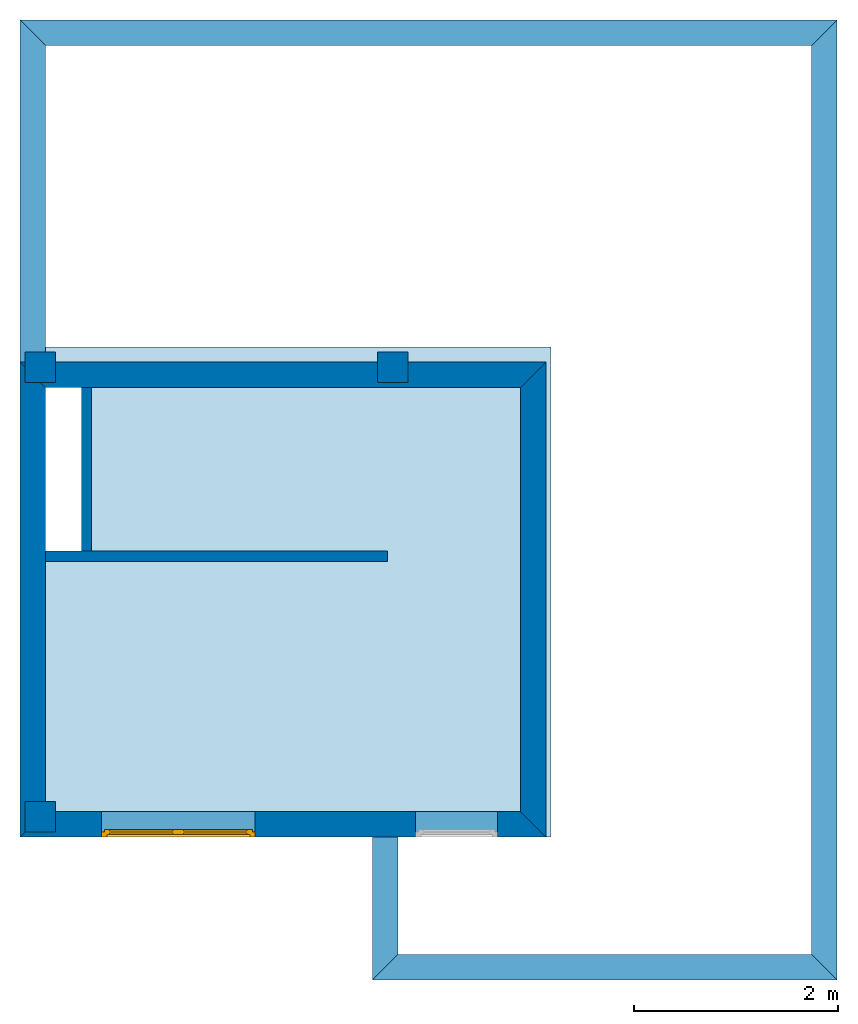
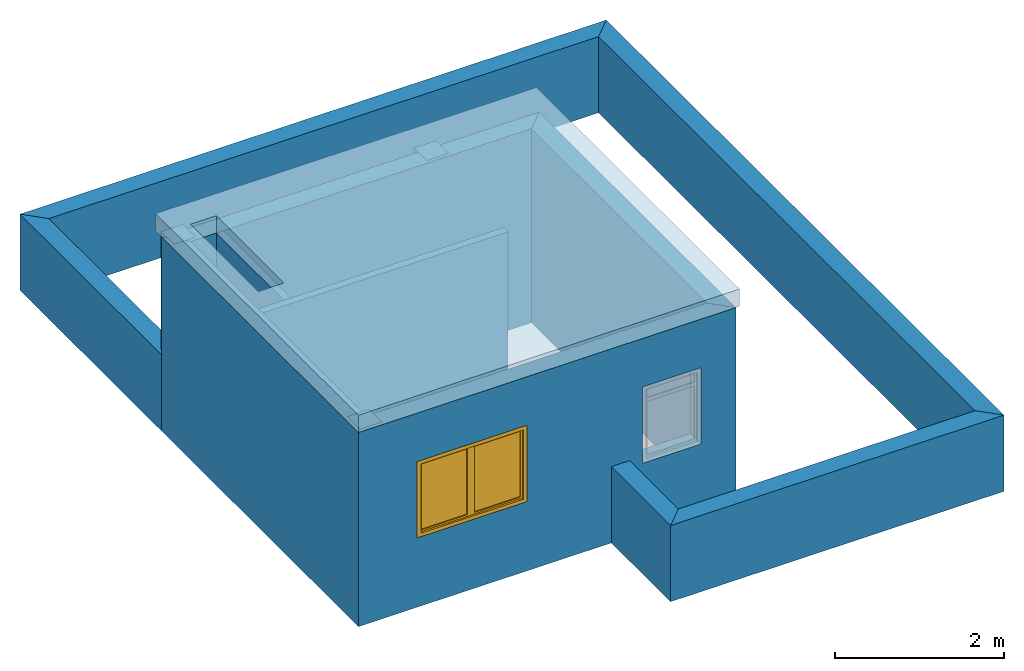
# One storey, part 1 of 2: 11 walls, 3 columns, 1 slab, 1 window, 3 openings.
"""IFC2X3 building model written with IfcOpenShell, lengths in millimetres."""

from ifc_helpers import new_model, entity, si_unit, converted_unit, direction, frame, frame_2d, origin_with_axes, origin_2d_with_axis, place, context, project, spatial, polyline, rectangle, outline, extrude, faceted_brep, source, transform, mapped, material, layer, layer_set, layer_usage, type_object, element, fill, save


model = new_model("IFC2X3")

# Units and contexts
context_of_model = context(None, 3, precision=1e-05, world=origin_with_axes(), true_north=direction((6.123234e-17, 1.0)))
plan_context = context("Plan", 3, precision=1e-05, world=origin_with_axes(), true_north=direction((6.123234e-17, 1.0)))
model_context = context("Model", 3, precision=1e-05, world=origin_with_axes(), true_north=direction((6.123234e-17, 1.0)))
ifc_project = project(units=[si_unit("LENGTHUNIT", "METRE", prefix="MILLI"), si_unit("AREAUNIT", "SQUARE_METRE"), si_unit("VOLUMEUNIT", "CUBIC_METRE"), converted_unit("PLANEANGLEUNIT", "DEGREE", entity("IfcPlaneAngleMeasure", 0.017453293), si_unit("PLANEANGLEUNIT", "RADIAN"), dimensions=[0, 0, 0, 0, 0, 0, 0]), si_unit("SOLIDANGLEUNIT", "STERADIAN"), si_unit("MASSUNIT", "GRAM"), si_unit("TIMEUNIT", "SECOND"), si_unit("THERMODYNAMICTEMPERATUREUNIT", "DEGREE_CELSIUS"), si_unit("LUMINOUSINTENSITYUNIT", "LUMEN")], contexts=[context_of_model, plan_context, model_context])

# Site, building, storey
site_placement = place(None, origin_with_axes())
site = spatial("IfcSite", under=ifc_project, at=site_placement, Name="Por defecto Sitio", CompositionType="ELEMENT")
building_placement = place(site_placement, origin_with_axes())
building = spatial("IfcBuilding", under=site, at=building_placement, Name="Por defecto Edificio", CompositionType="ELEMENT")
storey_placement = place(building_placement, frame((0.0, 0.0, 6300.0), z_axis=(0.0, 0.0, 1.0), x_axis=(1.0, 0.0, 0.0)))
storey = spatial("IfcBuildingStorey", under=building, at=storey_placement, Name="Azotea", CompositionType="ELEMENT", Elevation=6300.0)

# Columns
ifc_material_1 = material(Name="Hormigón armado")
for number, where, z_axis, x_axis, name in (
    (1, (0.0, 4950.0, 0.0), (0.0, 0.0, 1.0), (1.0, 0.0, 0.0), "Pilar-005"),
    (2, (3450.0, 9350.0, 0.0), (0.0, 0.0, 1.0), (1.0, 0.0, 0.0), "Pilar-007"),
    (3, (0.0, 9350.0, 0.0), (0.0, 0.0, 1.0), (1.0, 0.0, 0.0), "Pilar-008"),
):
    element("IfcColumn", number, at=place(storey_placement, frame(where, z_axis=z_axis, x_axis=x_axis)), inside=storey, material=ifc_material_1, Name=name, context=model_context, shape_type="SweptSolid", body=[
        extrude(rectangle(XDim=300.0, YDim=300.0, at=origin_2d_with_axis()), origin_with_axes(), (0.0, 0.0, 1.0), 2800.0),
    ])

# Slab, opening
ifc_layer_1 = layer(ifc_material_1, 250.0, ventilated="UNKNOWN")
ifc_layer_set_1 = layer_set([ifc_layer_1], Name="Hormigón armado 250")
ifc_layer_usage_1 = layer_usage(ifc_layer_set_1, "AXIS3", "NEGATIVE", 250.0)
slab_placement = place(storey_placement, frame((5000.0, 4750.0, 2800.0), z_axis=(0.0, 0.0, 1.0), x_axis=(-1.0, 0.0, 0.0)))
slab = element("IfcSlab", 4, at=slab_placement, inside=storey, material=ifc_layer_usage_1, Name="Forj-006", PredefinedType="FLOOR", context=model_context, shape_type="SweptSolid", body=[
    extrude(outline(polyline([(0.0, 0.0), (5200.0, 0.0), (5200.0, -4800.0), (0.0, -4800.0), (0.0, 0.0)])), origin_with_axes(), (0.0, 0.0, 1.0), 250.0),
])
opening_1_placement = place(slab_placement, origin_with_axes())
element("IfcOpeningElement", 5, at=opening_1_placement, cuts=slab, context=model_context, shape_type="SweptSolid", body=[
    extrude(outline(polyline([(4950.0, -4400.0), (4600.0, -4400.0), (4600.0, -2800.0), (4950.0, -2800.0), (4950.0, -4400.0)])), origin_with_axes(), (0.0, 0.0, 1.0), 250.0),
])

# Wall, openings, window
ifc_material_2 = material(Name="Bloque mampostería")
ifc_layer_2 = layer(ifc_material_2, 250.0, ventilated="UNKNOWN")
ifc_layer_set_2 = layer_set([ifc_layer_2], Name="Bloque mampostería 250")
ifc_layer_usage_2 = layer_usage(ifc_layer_set_2, "AXIS2", "NEGATIVE", 0.0)
wall_type_1 = type_object("IfcWallType", Name="Bloque mampostería 250", PredefinedType="NOTDEFINED", material=ifc_layer_set_2)
wall_1_placement = place(storey_placement, frame((4950.0, 4750.0, 0.0), z_axis=(0.0, 0.0, 1.0), x_axis=(-1.0, 0.0, 0.0)))
wall_1 = element("IfcWallStandardCase", 6, at=wall_1_placement, inside=storey, type_object=wall_type_1, material=ifc_layer_usage_2, Name="Muro-014", context=model_context, shape_type="SweptSolid", body=[
    extrude(outline(polyline([(250.0, -250.0), (4900.0, -250.0), (5150.0, 0.0), (0.0, 0.0), (250.0, -250.0)])), origin_with_axes(), (0.0, 0.0, 1.0), 2800.0),
])
opening_2_placement = place(wall_1_placement, frame((875.0, -250.0, 1000.0), z_axis=(0.0, 0.0, 1.0), x_axis=(1.0, 0.0, 0.0)))
element("IfcOpeningElement", 7, at=opening_2_placement, cuts=wall_1, ObjectType="Opening", context=model_context, shape_type="SweptSolid", body=[
    extrude(rectangle(XDim=800.0, YDim=1100.0, at=frame_2d((2.220446e-13, 550.0), x_axis=(1.0, 0.0))), frame((0.0, 0.0, 0.0), z_axis=(0.0, 1.0, 0.0), x_axis=(-1.0, 0.0, 0.0)), (0.0, 0.0, 1.0), 250.0),
])
opening_3_placement = place(wall_1_placement, frame((3600.0, -250.0, 1000.0), z_axis=(0.0, 0.0, 1.0), x_axis=(1.0, 0.0, 0.0)))
opening_3 = element("IfcOpeningElement", 8, at=opening_3_placement, cuts=wall_1, ObjectType="Opening", context=model_context, shape_type="SweptSolid", body=[
    extrude(rectangle(XDim=1500.0, YDim=1100.0, at=frame_2d((0.0, 550.0), x_axis=(-1.0, 0.0))), frame((0.0, 0.0, 0.0), z_axis=(0.0, 1.0, 0.0), x_axis=(-1.0, 0.0, 0.0)), (0.0, 0.0, 1.0), 250.0),
])
window_style = type_object("IfcWindowStyle", Name="V2 Practicable 13", ConstructionType="NOTDEFINED", OperationType="SINGLE_PANEL", ParameterTakesPrecedence=False, Sizeable=False)
shared_shape = source(origin_with_axes(), model_context, "Body", "Brep", [
    faceted_brep([(25.0, 50.0, 1050.0), (0.0, 50.0, 1050.0), (0.0, 0.0, 1050.0), (50.0, 0.0, 1050.0), (50.0, 25.0, 1050.0), (25.0, 25.0, 1050.0), (25.0, 50.0, 50.0), (0.0, 50.0, 50.0), (0.0, 0.0, 50.0), (50.0, 0.0, 50.0), (50.0, 25.0, 50.0), (25.0, 25.0, 50.0)], [[[0, 1, 2, 3, 4, 5]], [[6, 7, 1, 0]], [[1, 7, 8, 2]], [[2, 8, 9, 3]], [[4, 3, 9, 10]], [[10, 11, 5, 4]], [[5, 11, 6, 0]], [[11, 10, 9, 8, 7, 6]]]),
    faceted_brep([(1450.0, 25.0, 1050.0), (1450.0, 0.0, 1050.0), (1500.0, 0.0, 1050.0), (1500.0, 50.0, 1050.0), (1475.0, 50.0, 1050.0), (1475.0, 25.0, 1050.0), (1450.0, 25.0, 50.0), (1450.0, 0.0, 50.0), (1500.0, 0.0, 50.0), (1500.0, 50.0, 50.0), (1475.0, 50.0, 50.0), (1475.0, 25.0, 50.0)], [[[0, 1, 2, 3, 4, 5]], [[6, 7, 1, 0]], [[8, 2, 1, 7]], [[9, 3, 2, 8]], [[4, 3, 9, 10]], [[10, 11, 5, 4]], [[5, 11, 6, 0]], [[11, 10, 9, 8, 7, 6]]]),
    faceted_brep([(1450.0, 25.0, 50.0), (1450.0, 0.0, 50.0), (1500.0, 0.0, 50.0), (1500.0, 50.0, 50.0), (1475.0, 50.0, 50.0), (1475.0, 25.0, 50.0), (50.0, 25.0, 50.0), (50.0, 0.0, 50.0), (0.0, 0.0, 50.0), (0.0, 0.0, 0.0), (1500.0, 0.0, 0.0), (1500.0, 50.0, 0.0), (25.0, 50.0, 25.0), (750.0, 50.0, 25.0), (1475.0, 50.0, 25.0), (0.0, 50.0, 0.0), (0.0, 50.0, 50.0), (25.0, 50.0, 50.0), (1475.0, 25.0, 25.0), (750.0, 25.0, 25.0), (25.0, 25.0, 25.0), (25.0, 25.0, 50.0)], [[[0, 1, 2, 3, 4, 5]], [[6, 7, 1, 0]], [[8, 9, 10, 2, 1, 7]], [[11, 3, 2, 10]], [[12, 13, 14, 4, 3, 11, 15, 16, 17]], [[14, 18, 5, 4]], [[5, 18, 19, 20, 21, 6, 0]], [[21, 17, 16, 8, 7, 6]], [[16, 15, 9, 8]], [[15, 11, 10, 9]], [[12, 20, 19, 13]], [[13, 19, 18, 14]], [[21, 20, 12, 17]]]),
    faceted_brep([(25.0, 50.0, 1075.0), (25.0, 50.0, 1050.0), (0.0, 50.0, 1050.0), (0.0, 50.0, 1100.0), (1500.0, 50.0, 1100.0), (1500.0, 50.0, 1050.0), (1475.0, 50.0, 1050.0), (1475.0, 50.0, 1075.0), (750.0, 50.0, 1075.0), (25.0, 25.0, 1075.0), (25.0, 25.0, 1050.0), (50.0, 25.0, 1050.0), (50.0, 0.0, 1050.0), (0.0, 0.0, 1050.0), (0.0, 0.0, 1100.0), (1500.0, 0.0, 1100.0), (1500.0, 0.0, 1050.0), (1475.0, 25.0, 1050.0), (1450.0, 0.0, 1050.0), (1450.0, 25.0, 1050.0), (1475.0, 25.0, 1075.0), (750.0, 25.0, 1075.0)], [[[0, 1, 2, 3, 4, 5, 6, 7, 8]], [[0, 9, 10, 1]], [[10, 11, 12, 13, 2, 1]], [[3, 2, 13, 14]], [[4, 3, 14, 15]], [[5, 4, 15, 16]], [[17, 6, 5, 16, 18, 19]], [[6, 17, 20, 7]], [[7, 20, 21, 8]], [[8, 21, 9, 0]], [[19, 11, 10, 9, 21, 20, 17]], [[19, 18, 12, 11]], [[16, 15, 14, 13, 12, 18]]]),
    faceted_brep([(1425.0, 25.0, 75.0), (1425.0, 25.0, 1025.0), (1425.0, 75.0, 1025.0), (1425.0, 75.0, 75.0), (1475.0, 25.0, 75.0), (1475.0, 25.0, 1025.0), (1475.0, 75.0, 1025.0), (1475.0, 75.0, 75.0)], [[[0, 1, 2, 3]], [[0, 4, 5, 1]], [[1, 5, 6, 2]], [[3, 2, 6, 7]], [[4, 0, 3, 7]], [[5, 4, 7, 6]]]),
    faceted_brep([(750.0, 25.0, 75.0), (750.0, 25.0, 1025.0), (750.0, 75.0, 1025.0), (750.0, 75.0, 75.0), (800.0, 25.0, 75.0), (800.0, 25.0, 1025.0), (800.0, 75.0, 1025.0), (800.0, 75.0, 75.0)], [[[0, 1, 2, 3]], [[0, 4, 5, 1]], [[1, 5, 6, 2]], [[3, 2, 6, 7]], [[4, 0, 3, 7]], [[5, 4, 7, 6]]]),
    faceted_brep([(750.0, 25.0, 25.0), (750.0, 25.0, 75.0), (750.0, 75.0, 75.0), (750.0, 75.0, 25.0), (1475.0, 25.0, 25.0), (1475.0, 25.0, 75.0), (1425.0, 25.0, 75.0), (800.0, 25.0, 75.0), (800.0, 75.0, 75.0), (1425.0, 75.0, 75.0), (1475.0, 75.0, 75.0), (1475.0, 75.0, 25.0)], [[[0, 1, 2, 3]], [[0, 4, 5, 6, 7, 1]], [[1, 7, 8, 2]], [[3, 2, 8, 9, 10, 11]], [[4, 0, 3, 11]], [[5, 4, 11, 10]], [[6, 5, 10, 9]], [[7, 6, 9, 8]]]),
    faceted_brep([(1475.0, 25.0, 1075.0), (1475.0, 25.0, 1025.0), (1475.0, 75.0, 1025.0), (1475.0, 75.0, 1075.0), (750.0, 25.0, 1075.0), (750.0, 25.0, 1025.0), (800.0, 25.0, 1025.0), (1425.0, 25.0, 1025.0), (1425.0, 75.0, 1025.0), (800.0, 75.0, 1025.0), (750.0, 75.0, 1025.0), (750.0, 75.0, 1075.0)], [[[0, 1, 2, 3]], [[0, 4, 5, 6, 7, 1]], [[1, 7, 8, 2]], [[3, 2, 8, 9, 10, 11]], [[4, 0, 3, 11]], [[5, 4, 11, 10]], [[6, 5, 10, 9]], [[7, 6, 9, 8]]]),
    faceted_brep([(1425.0, 40.0, 75.0), (800.0, 40.0, 75.0), (800.0, 60.0, 75.0), (1425.0, 60.0, 75.0), (1425.0, 40.0, 1025.0), (800.0, 40.0, 1025.0), (800.0, 60.0, 1025.0), (1425.0, 60.0, 1025.0)], [[[0, 1, 2, 3]], [[0, 4, 5, 1]], [[1, 5, 6, 2]], [[3, 2, 6, 7]], [[4, 0, 3, 7]], [[5, 4, 7, 6]]]),
    faceted_brep([(700.0, 25.0, 75.0), (700.0, 25.0, 1025.0), (700.0, 75.0, 1025.0), (700.0, 75.0, 75.0), (750.0, 25.0, 75.0), (750.0, 25.0, 1025.0), (750.0, 75.0, 1025.0), (750.0, 75.0, 75.0)], [[[0, 1, 2, 3]], [[0, 4, 5, 1]], [[1, 5, 6, 2]], [[3, 2, 6, 7]], [[4, 0, 3, 7]], [[5, 4, 7, 6]]]),
    faceted_brep([(25.0, 25.0, 75.0), (25.0, 25.0, 1025.0), (25.0, 75.0, 1025.0), (25.0, 75.0, 75.0), (75.0, 25.0, 75.0), (75.0, 25.0, 1025.0), (75.0, 75.0, 1025.0), (75.0, 75.0, 75.0)], [[[0, 1, 2, 3]], [[0, 4, 5, 1]], [[1, 5, 6, 2]], [[3, 2, 6, 7]], [[4, 0, 3, 7]], [[5, 4, 7, 6]]]),
    faceted_brep([(25.0, 25.0, 25.0), (25.0, 25.0, 75.0), (25.0, 75.0, 75.0), (25.0, 75.0, 25.0), (750.0, 25.0, 25.0), (750.0, 25.0, 75.0), (700.0, 25.0, 75.0), (75.0, 25.0, 75.0), (75.0, 75.0, 75.0), (700.0, 75.0, 75.0), (750.0, 75.0, 75.0), (750.0, 75.0, 25.0)], [[[0, 1, 2, 3]], [[0, 4, 5, 6, 7, 1]], [[1, 7, 8, 2]], [[3, 2, 8, 9, 10, 11]], [[4, 0, 3, 11]], [[5, 4, 11, 10]], [[6, 5, 10, 9]], [[7, 6, 9, 8]]]),
    faceted_brep([(750.0, 25.0, 1075.0), (750.0, 25.0, 1025.0), (750.0, 75.0, 1025.0), (750.0, 75.0, 1075.0), (25.0, 25.0, 1075.0), (25.0, 25.0, 1025.0), (75.0, 25.0, 1025.0), (700.0, 25.0, 1025.0), (700.0, 75.0, 1025.0), (75.0, 75.0, 1025.0), (25.0, 75.0, 1025.0), (25.0, 75.0, 1075.0)], [[[0, 1, 2, 3]], [[0, 4, 5, 6, 7, 1]], [[1, 7, 8, 2]], [[3, 2, 8, 9, 10, 11]], [[4, 0, 3, 11]], [[5, 4, 11, 10]], [[6, 5, 10, 9]], [[7, 6, 9, 8]]]),
    faceted_brep([(700.0, 40.0, 75.0), (75.0, 40.0, 75.0), (75.0, 60.0, 75.0), (700.0, 60.0, 75.0), (700.0, 40.0, 1025.0), (75.0, 40.0, 1025.0), (75.0, 60.0, 1025.0), (700.0, 60.0, 1025.0)], [[[0, 1, 2, 3]], [[0, 4, 5, 1]], [[1, 5, 6, 2]], [[3, 2, 6, 7]], [[4, 0, 3, 7]], [[5, 4, 7, 6]]]),
])
window_placement = place(opening_3_placement, frame((750.0, 250.0, 0.0), z_axis=(0.0, 0.0, 1.0), x_axis=(-1.0, 0.0, 0.0)))
window = element("IfcWindow", 9, at=window_placement, inside=storey, type_object=window_style, Name="V04", OverallHeight=1100.0, OverallWidth=1500.0, context=model_context, shape_type="MappedRepresentation", body=[
    mapped(shared_shape, transform((0.0, 0.0, 0.0), scale=1.0)),
])
fill(opening_3, window)

# Walls
ifc_layer_usage_3 = layer_usage(ifc_layer_set_2, "AXIS2", "NEGATIVE", 0.0)
wall_2_placement = place(storey_placement, frame((-200.0, 4750.0, 0.0), z_axis=(0.0, 0.0, 1.0), x_axis=(0.0, 1.0, 0.0)))
element("IfcWallStandardCase", 10, at=wall_2_placement, inside=storey, type_object=wall_type_1, material=ifc_layer_usage_3, Name="Muro-015", context=model_context, shape_type="SweptSolid", body=[
    extrude(outline(polyline([(250.0, -250.0), (4400.0, -250.0), (4650.0, 0.0), (0.0, 0.0), (250.0, -250.0)])), origin_with_axes(), (0.0, 0.0, 1.0), 2800.0),
])
ifc_layer_usage_4 = layer_usage(ifc_layer_set_2, "AXIS2", "NEGATIVE", 0.0)
wall_3_placement = place(storey_placement, frame((-200.0, 9400.0, 0.0), z_axis=(0.0, 0.0, 1.0), x_axis=(1.0, 0.0, 0.0)))
element("IfcWallStandardCase", 11, at=wall_3_placement, inside=storey, type_object=wall_type_1, material=ifc_layer_usage_4, Name="Muro-016", context=model_context, shape_type="SweptSolid", body=[
    extrude(outline(polyline([(250.0, -250.0), (4900.0, -250.0), (5150.0, 0.0), (0.0, 0.0), (250.0, -250.0)])), origin_with_axes(), (0.0, 0.0, 1.0), 2800.0),
])
ifc_layer_usage_5 = layer_usage(ifc_layer_set_2, "AXIS2", "NEGATIVE", 0.0)
wall_4_placement = place(storey_placement, frame((4950.0, 9400.0, 0.0), z_axis=(0.0, 0.0, 1.0), x_axis=(0.0, -1.0, 0.0)))
element("IfcWallStandardCase", 12, at=wall_4_placement, inside=storey, type_object=wall_type_1, material=ifc_layer_usage_5, Name="Muro-017", context=model_context, shape_type="SweptSolid", body=[
    extrude(outline(polyline([(250.0, -250.0), (4400.0, -250.0), (4650.0, 0.0), (0.0, 0.0), (250.0, -250.0)])), origin_with_axes(), (0.0, 0.0, 1.0), 2800.0),
])
ifc_layer_usage_6 = layer_usage(ifc_layer_set_2, "AXIS2", "POSITIVE", 0.0)
wall_5_placement = place(storey_placement, frame((3250.0, 4750.0, 0.0), z_axis=(0.0, 0.0, 1.0), x_axis=(6.0903663e-14, -1.0, 0.0)))
element("IfcWallStandardCase", 13, at=wall_5_placement, inside=storey, type_object=wall_type_1, material=ifc_layer_usage_6, Name="Muro-009", context=model_context, shape_type="SweptSolid", body=[
    extrude(outline(polyline([(0.0, 0.0), (1400.0, 0.0), (1150.0, 250.0), (1.5099033e-11, 250.0), (0.0, 0.0)])), origin_with_axes(), (0.0, 0.0, 1.0), 1100.0),
])
ifc_layer_usage_7 = layer_usage(ifc_layer_set_2, "AXIS2", "POSITIVE", 0.0)
wall_6_placement = place(storey_placement, frame((3250.0, 3350.0, 0.0), z_axis=(0.0, 0.0, 1.0), x_axis=(1.0, 0.0, 0.0)))
element("IfcWallStandardCase", 14, at=wall_6_placement, inside=storey, type_object=wall_type_1, material=ifc_layer_usage_7, Name="Muro-010", context=model_context, shape_type="SweptSolid", body=[
    extrude(outline(polyline([(0.0, 0.0), (4550.0, 0.0), (4300.0, 250.0), (250.0, 250.0), (0.0, 0.0)])), origin_with_axes(), (0.0, 0.0, 1.0), 1100.0),
])
ifc_layer_usage_8 = layer_usage(ifc_layer_set_2, "AXIS2", "POSITIVE", 0.0)
wall_7_placement = place(storey_placement, frame((7800.0, 3350.0, 0.0), z_axis=(0.0, 0.0, 1.0), x_axis=(0.0, 1.0, 0.0)))
element("IfcWallStandardCase", 15, at=wall_7_placement, inside=storey, type_object=wall_type_1, material=ifc_layer_usage_8, Name="Muro-011", context=model_context, shape_type="SweptSolid", body=[
    extrude(outline(polyline([(0.0, 0.0), (9400.0, 0.0), (9150.0, 250.0), (250.0, 250.0), (0.0, 0.0)])), origin_with_axes(), (0.0, 0.0, 1.0), 1100.0),
])
ifc_layer_usage_9 = layer_usage(ifc_layer_set_2, "AXIS2", "POSITIVE", 0.0)
wall_8_placement = place(storey_placement, frame((7800.0, 12750.0, 0.0), z_axis=(0.0, 0.0, 1.0), x_axis=(-1.0, 0.0, 0.0)))
element("IfcWallStandardCase", 16, at=wall_8_placement, inside=storey, type_object=wall_type_1, material=ifc_layer_usage_9, Name="Muro-012", context=model_context, shape_type="SweptSolid", body=[
    extrude(outline(polyline([(0.0, 0.0), (8000.0, 0.0), (7750.0, 250.0), (250.0, 250.0), (0.0, 0.0)])), origin_with_axes(), (0.0, 0.0, 1.0), 1100.0),
])
ifc_layer_usage_10 = layer_usage(ifc_layer_set_2, "AXIS2", "POSITIVE", 0.0)
wall_9_placement = place(storey_placement, frame((-200.0, 12750.0, 0.0), z_axis=(0.0, 0.0, 1.0), x_axis=(0.0, -1.0, 0.0)))
element("IfcWallStandardCase", 17, at=wall_9_placement, inside=storey, type_object=wall_type_1, material=ifc_layer_usage_10, Name="Muro-013", context=model_context, shape_type="SweptSolid", body=[
    extrude(outline(polyline([(0.0, 0.0), (3350.0, 0.0), (3350.0, 250.0), (250.0, 250.0), (0.0, 0.0)])), origin_with_axes(), (0.0, 0.0, 1.0), 1100.0),
])
ifc_layer_3 = layer(ifc_material_2, 100.0, ventilated="UNKNOWN")
ifc_layer_set_3 = layer_set([ifc_layer_3], Name="Bloque mampostería 100")
ifc_layer_usage_11 = layer_usage(ifc_layer_set_3, "AXIS2", "POSITIVE", 0.0)
wall_type_2 = type_object("IfcWallType", Name="Bloque mampostería 100", PredefinedType="NOTDEFINED", material=ifc_layer_set_3)
wall_10_placement = place(storey_placement, frame((-200.0, 7450.0, 0.0), z_axis=(0.0, 0.0, 1.0), x_axis=(1.0, 0.0, 0.0)))
element("IfcWallStandardCase", 18, at=wall_10_placement, inside=storey, type_object=wall_type_2, material=ifc_layer_usage_11, Name="Muro-017", context=model_context, shape_type="SweptSolid", body=[
    extrude(outline(polyline([(250.0, 0.0), (3600.0, 0.0), (3600.0, 100.0), (250.0, 100.0), (250.0, 0.0)])), origin_with_axes(), (0.0, 0.0, 1.0), 2800.0),
])
ifc_layer_usage_12 = layer_usage(ifc_layer_set_3, "AXIS2", "POSITIVE", 0.0)
wall_11_placement = place(storey_placement, frame((500.0, 7450.0, 0.0), z_axis=(0.0, 0.0, 1.0), x_axis=(0.0, 1.0, 0.0)))
element("IfcWallStandardCase", 19, at=wall_11_placement, inside=storey, type_object=wall_type_2, material=ifc_layer_usage_12, Name="Muro-018", context=model_context, shape_type="SweptSolid", body=[
    extrude(outline(polyline([(100.0, 0.0), (1700.0, 0.0), (1700.0, 100.0), (100.0, 100.0), (100.0, 0.0)])), origin_with_axes(), (0.0, 0.0, 1.0), 2800.0),
])

save(model, "model.ifc")
